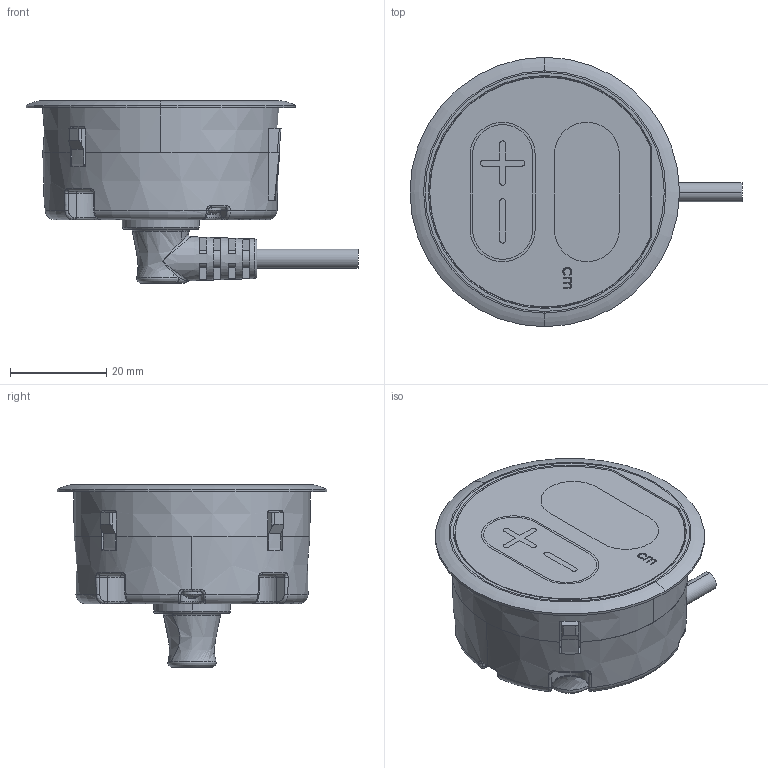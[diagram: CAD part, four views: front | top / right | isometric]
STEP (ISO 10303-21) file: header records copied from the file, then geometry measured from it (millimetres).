
FILE_DESCRIPTION (( 'STEP AP203' ), '1' );
FILE_NAME ('THD.STEP', '2012-07-11T09:14:03', ( '' ), ( '' ), 'SwSTEP 2.0', 'SolidWorks 2010', '' );
FILE_SCHEMA (( 'CONFIG_CONTROL_DESIGN' ));
Length unit declared in the file: millimetre
Products named in the file (6): THD; 2012-0402_THD_Bottom; 2012-0402_THD_Top; 40510-088-SR-A; 面板; 自攻螺絲
Assembly tree (7 placements, depth 2):
  THD
    2012-0402_THD_Top
    自攻螺絲  x3
    2012-0402_THD_Bottom
    40510-088-SR-A
    面板
Bounding box: 69 x 56 x 37.95 mm (x, y, z)
Volume: 48624.9 mm3; surface area: 24117.6 mm2
Topology: 7 solids, 7 shells, 771 faces, 1992 edges, 1264 vertices
Faces by surface type: cylinder 286, plane 241, torus 90, cone 87, bspline 59, sphere 8
Entity records: 31787 total; most frequent: CARTESIAN_POINT 15733, ORIENTED_EDGE 3308, DIRECTION 3214, EDGE_CURVE 1654, AXIS2_PLACEMENT_3D 1279, VERTEX_POINT 1044, EDGE_LOOP 688, CIRCLE 675
